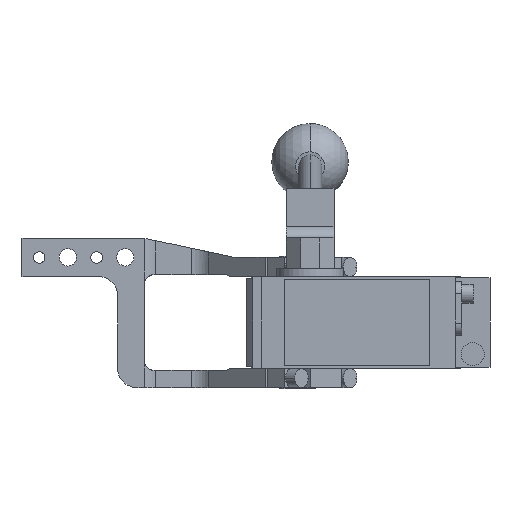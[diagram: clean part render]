
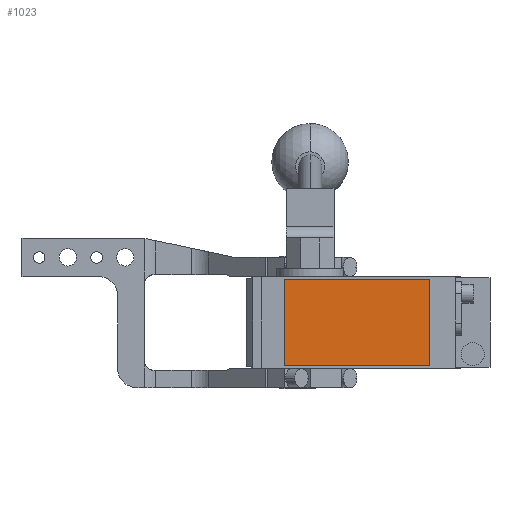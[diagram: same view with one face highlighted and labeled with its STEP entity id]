
A CAD part, front view. The second image highlights one B-rep face of the part: STEP entity #1023.
In plain terms, the highlighted planar face has unit normal (0, -1, 0).
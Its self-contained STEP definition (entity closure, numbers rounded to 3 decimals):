
#217 = CARTESIAN_POINT ( 'NONE',  ( 69., -280.5, 22.5 ) ) ;
#1023 = ADVANCED_FACE ( 'NONE', ( #6817 ), #1054, .T. ) ;
#1054 = PLANE ( 'NONE',  #3228 ) ;
#1550 = LINE ( 'NONE', #217, #14714 ) ;
#1755 = LINE ( 'NONE', #10987, #13798 ) ;
#2991 = ORIENTED_EDGE ( 'NONE', *, *, #8239, .T. ) ;
#3001 = VERTEX_POINT ( 'NONE', #10727 ) ;
#3228 = AXIS2_PLACEMENT_3D ( 'NONE', #5688, #4191, #8812 ) ;
#3420 = EDGE_CURVE ( 'NONE', #3001, #5894, #9910, .T. ) ;
#3684 = VERTEX_POINT ( 'NONE', #11796 ) ;
#4191 = DIRECTION ( 'NONE',  ( 0., -1., 0. ) ) ;
#4216 = VERTEX_POINT ( 'NONE', #6090 ) ;
#4680 = EDGE_LOOP ( 'NONE', ( #2991, #7707, #14525, #12036 ) ) ;
#4848 = DIRECTION ( 'NONE',  ( 0., 0., 1. ) ) ;
#5385 = CARTESIAN_POINT ( 'NONE',  ( -7., -280.5, 22.5 ) ) ;
#5688 = CARTESIAN_POINT ( 'NONE',  ( 0., -280.5, 0. ) ) ;
#5894 = VERTEX_POINT ( 'NONE', #5385 ) ;
#6090 = CARTESIAN_POINT ( 'NONE',  ( -7., -280.5, -22.5 ) ) ;
#6817 = FACE_OUTER_BOUND ( 'NONE', #4680, .T. ) ;
#7538 = DIRECTION ( 'NONE',  ( 1., 0., 0. ) ) ;
#7651 = DIRECTION ( 'NONE',  ( -1., 0., 0. ) ) ;
#7707 = ORIENTED_EDGE ( 'NONE', *, *, #11147, .T. ) ;
#8239 = EDGE_CURVE ( 'NONE', #5894, #4216, #11333, .T. ) ;
#8812 = DIRECTION ( 'NONE',  ( 0., 0., -1. ) ) ;
#9225 = CARTESIAN_POINT ( 'NONE',  ( -7., -280.5, 22.5 ) ) ;
#9875 = EDGE_CURVE ( 'NONE', #3684, #3001, #1550, .T. ) ;
#9910 = LINE ( 'NONE', #13370, #10142 ) ;
#10088 = VECTOR ( 'NONE', #10184, 1000. ) ;
#10142 = VECTOR ( 'NONE', #7651, 1000. ) ;
#10184 = DIRECTION ( 'NONE',  ( 0., 0., -1. ) ) ;
#10727 = CARTESIAN_POINT ( 'NONE',  ( 69., -280.5, 22.5 ) ) ;
#10987 = CARTESIAN_POINT ( 'NONE',  ( -7., -280.5, -22.5 ) ) ;
#11147 = EDGE_CURVE ( 'NONE', #4216, #3684, #1755, .T. ) ;
#11333 = LINE ( 'NONE', #9225, #10088 ) ;
#11796 = CARTESIAN_POINT ( 'NONE',  ( 69., -280.5, -22.5 ) ) ;
#12036 = ORIENTED_EDGE ( 'NONE', *, *, #3420, .T. ) ;
#13370 = CARTESIAN_POINT ( 'NONE',  ( -7., -280.5, 22.5 ) ) ;
#13798 = VECTOR ( 'NONE', #7538, 1000. ) ;
#14525 = ORIENTED_EDGE ( 'NONE', *, *, #9875, .T. ) ;
#14714 = VECTOR ( 'NONE', #4848, 1000. ) ;
